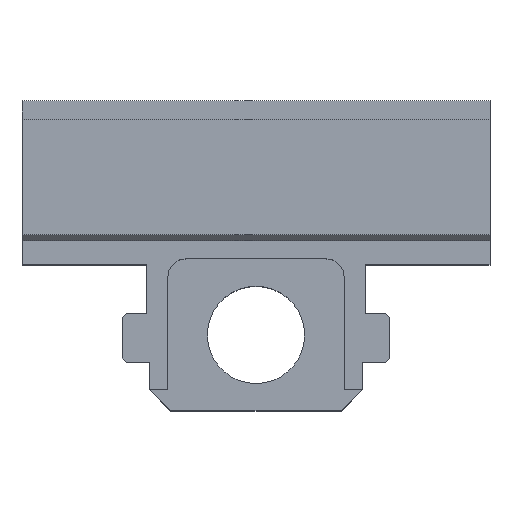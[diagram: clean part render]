
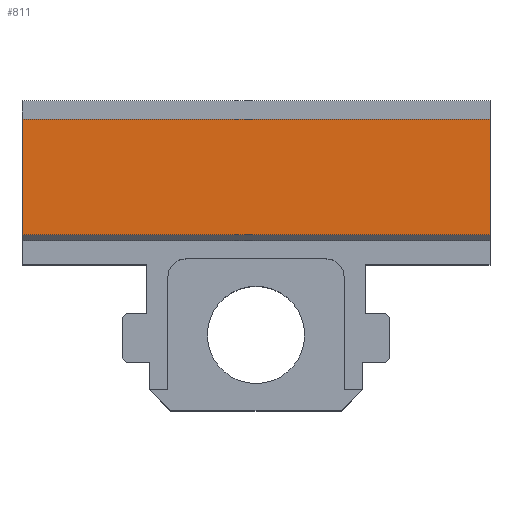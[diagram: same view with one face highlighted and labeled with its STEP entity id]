
A CAD part, top view. The second image highlights one B-rep face of the part: STEP entity #811.
In plain terms, the highlighted planar face has unit normal (0, 0, 1).
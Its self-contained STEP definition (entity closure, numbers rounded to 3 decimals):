
#3 = VECTOR ( 'NONE', #883, 1000. ) ;
#22 = CARTESIAN_POINT ( 'NONE',  ( 38.5, 43., 18. ) ) ;
#38 = CARTESIAN_POINT ( 'NONE',  ( 38.5, 43., 18. ) ) ;
#50 = VECTOR ( 'NONE', #1198, 1000. ) ;
#256 = CARTESIAN_POINT ( 'NONE',  ( -38.5, 43., 18. ) ) ;
#258 = EDGE_CURVE ( 'NONE', #1003, #1668, #740, .T. ) ;
#353 = EDGE_CURVE ( 'NONE', #499, #1003, #595, .T. ) ;
#357 = CARTESIAN_POINT ( 'NONE',  ( -38.5, 62., 18. ) ) ;
#455 = DIRECTION ( 'NONE',  ( 0., -1., 0. ) ) ;
#499 = VERTEX_POINT ( 'NONE', #1211 ) ;
#524 = DIRECTION ( 'NONE',  ( 0., 1., 0. ) ) ;
#527 = LINE ( 'NONE', #1067, #50 ) ;
#595 = LINE ( 'NONE', #38, #1219 ) ;
#617 = CARTESIAN_POINT ( 'NONE',  ( -38.5, 43., 18. ) ) ;
#676 = ORIENTED_EDGE ( 'NONE', *, *, #258, .F. ) ;
#740 = LINE ( 'NONE', #22, #3 ) ;
#795 = FACE_OUTER_BOUND ( 'NONE', #1748, .T. ) ;
#811 = ADVANCED_FACE ( 'NONE', ( #795 ), #913, .F. ) ;
#883 = DIRECTION ( 'NONE',  ( -1., 0., 0. ) ) ;
#894 = DIRECTION ( 'NONE',  ( 0., -1., 0. ) ) ;
#913 = PLANE ( 'NONE',  #976 ) ;
#976 = AXIS2_PLACEMENT_3D ( 'NONE', #1330, #1769, #524 ) ;
#1003 = VERTEX_POINT ( 'NONE', #1021 ) ;
#1021 = CARTESIAN_POINT ( 'NONE',  ( 38.5, 43., 18. ) ) ;
#1067 = CARTESIAN_POINT ( 'NONE',  ( 38.5, 62., 18. ) ) ;
#1089 = VERTEX_POINT ( 'NONE', #357 ) ;
#1100 = ORIENTED_EDGE ( 'NONE', *, *, #1550, .T. ) ;
#1198 = DIRECTION ( 'NONE',  ( -1., 0., 0. ) ) ;
#1211 = CARTESIAN_POINT ( 'NONE',  ( 38.5, 62., 18. ) ) ;
#1219 = VECTOR ( 'NONE', #455, 1000. ) ;
#1330 = CARTESIAN_POINT ( 'NONE',  ( 38.5, 43., 18. ) ) ;
#1333 = EDGE_CURVE ( 'NONE', #1089, #1668, #1565, .T. ) ;
#1345 = ORIENTED_EDGE ( 'NONE', *, *, #1333, .T. ) ;
#1550 = EDGE_CURVE ( 'NONE', #499, #1089, #527, .T. ) ;
#1565 = LINE ( 'NONE', #617, #1595 ) ;
#1595 = VECTOR ( 'NONE', #894, 1000. ) ;
#1668 = VERTEX_POINT ( 'NONE', #256 ) ;
#1748 = EDGE_LOOP ( 'NONE', ( #1345, #676, #1784, #1100 ) ) ;
#1769 = DIRECTION ( 'NONE',  ( 0., 0., -1. ) ) ;
#1784 = ORIENTED_EDGE ( 'NONE', *, *, #353, .F. ) ;
